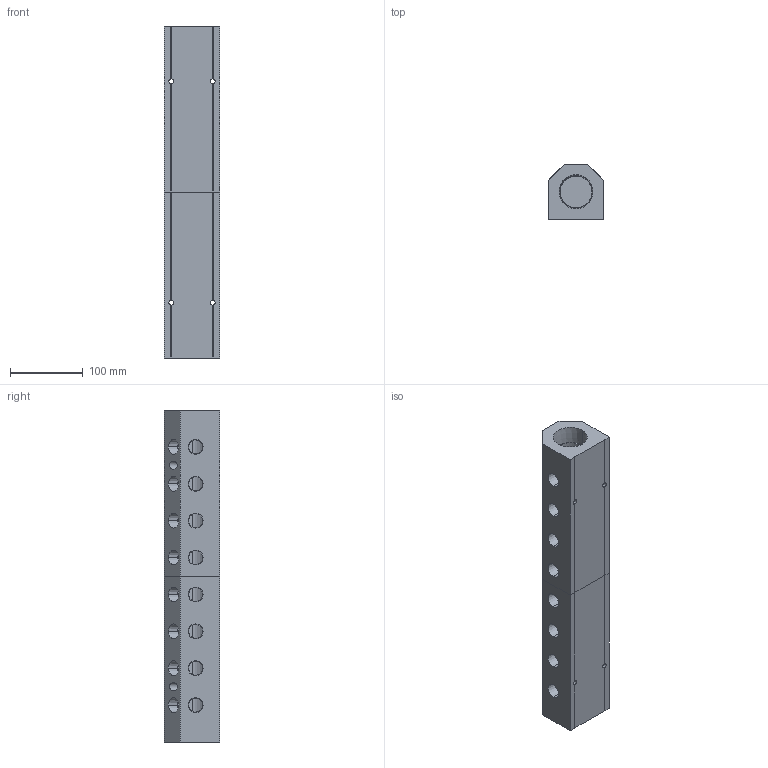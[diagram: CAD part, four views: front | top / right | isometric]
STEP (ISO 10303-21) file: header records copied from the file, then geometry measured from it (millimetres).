
FILE_DESCRIPTION (( 'STEP AP214' ), '1' );
FILE_NAME ('ALM8ABC-N8N24-457RB.step', '2022-02-07T09:39:47', ( '' ), ( '' ), 'SwSTEP 2.0', 'SolidWorks 2020', '' );
FILE_SCHEMA (( 'AUTOMOTIVE_DESIGN' ));
Length unit declared in the file: millimetre
Products named in the file (1): ALM8ABC-N8N24-457RB
Bounding box: 76.2 x 76.2 x 457 mm (x, y, z)
Volume: 1580192.9 mm3; surface area: 228213.9 mm2
Topology: 2 solids, 2 shells, 404 faces, 1138 edges, 756 vertices
Faces by surface type: plane 249, bspline 83, cone 52, cylinder 20
Entity records: 24018 total; most frequent: CARTESIAN_POINT 10374, ORIENTED_EDGE 2276, DIRECTION 1576, EDGE_CURVE 1138, VERTEX_POINT 756, VECTOR 756, LINE 756, EDGE_LOOP 478
